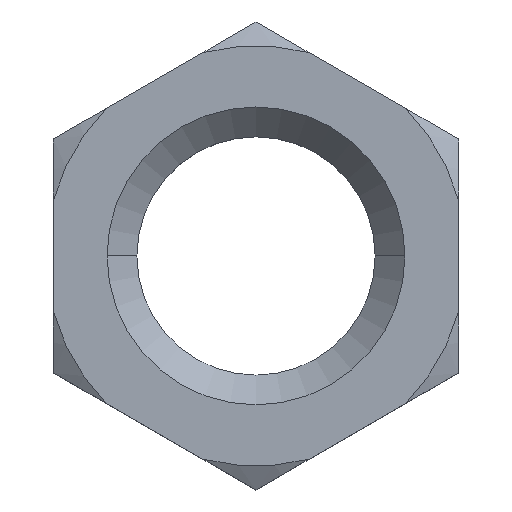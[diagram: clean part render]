
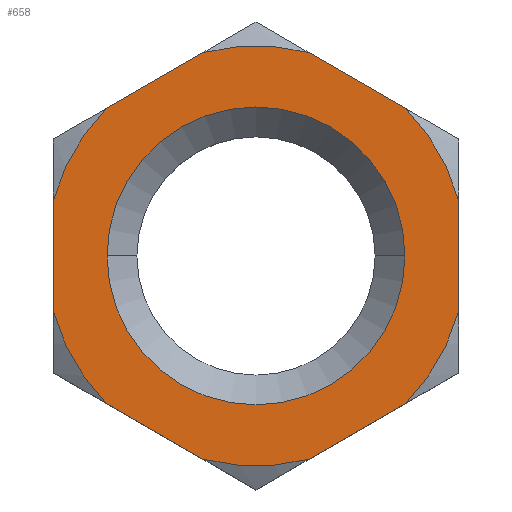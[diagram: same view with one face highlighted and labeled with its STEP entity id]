
A CAD part, top view. The second image highlights one B-rep face of the part: STEP entity #658.
In plain terms, the highlighted planar face has unit normal (0, 0, 1).
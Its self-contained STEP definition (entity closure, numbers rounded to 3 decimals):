
#8 = LINE ( 'NONE', #492, #610 ) ;
#11 = CARTESIAN_POINT ( 'NONE',  ( 0., 0., 2.35 ) ) ;
#15 = CARTESIAN_POINT ( 'NONE',  ( 0., 0., 2.35 ) ) ;
#17 = ORIENTED_EDGE ( 'NONE', *, *, #471, .F. ) ;
#21 = CIRCLE ( 'NONE', #149, 8.815 ) ;
#23 = AXIS2_PLACEMENT_3D ( 'NONE', #878, #588, #34 ) ;
#34 = DIRECTION ( 'NONE',  ( -1., 0., 0. ) ) ;
#41 = LINE ( 'NONE', #465, #411 ) ;
#54 = AXIS2_PLACEMENT_3D ( 'NONE', #264, #708, #772 ) ;
#56 = EDGE_CURVE ( 'NONE', #371, #888, #589, .T. ) ;
#57 = LINE ( 'NONE', #715, #934 ) ;
#70 = CARTESIAN_POINT ( 'NONE',  ( 6.272, 6.194, 2.35 ) ) ;
#89 = DIRECTION ( 'NONE',  ( 0., 0., -1. ) ) ;
#110 = EDGE_CURVE ( 'NONE', #123, #690, #403, .T. ) ;
#122 = DIRECTION ( 'NONE',  ( 0.866, -0.5, 0. ) ) ;
#123 = VERTEX_POINT ( 'NONE', #380 ) ;
#124 = ORIENTED_EDGE ( 'NONE', *, *, #440, .F. ) ;
#125 = CARTESIAN_POINT ( 'NONE',  ( -8.5, 4.907, 2.35 ) ) ;
#149 = AXIS2_PLACEMENT_3D ( 'NONE', #629, #852, #923 ) ;
#156 = DIRECTION ( 'NONE',  ( 0., 0., -1. ) ) ;
#162 = CARTESIAN_POINT ( 'NONE',  ( -6.25, 0., 2.35 ) ) ;
#164 = AXIS2_PLACEMENT_3D ( 'NONE', #594, #516, #520 ) ;
#180 = CIRCLE ( 'NONE', #164, 8.815 ) ;
#187 = EDGE_CURVE ( 'NONE', #501, #736, #287, .T. ) ;
#189 = ORIENTED_EDGE ( 'NONE', *, *, #851, .F. ) ;
#210 = EDGE_CURVE ( 'NONE', #746, #352, #325, .T. ) ;
#215 = CARTESIAN_POINT ( 'NONE',  ( 2.228, -8.529, 2.35 ) ) ;
#216 = VERTEX_POINT ( 'NONE', #70 ) ;
#234 = DIRECTION ( 'NONE',  ( 0., 0., -1. ) ) ;
#235 = DIRECTION ( 'NONE',  ( 0., 0., -1. ) ) ;
#239 = CARTESIAN_POINT ( 'NONE',  ( -6.272, -6.194, 2.35 ) ) ;
#264 = CARTESIAN_POINT ( 'NONE',  ( 0., 0., 2.35 ) ) ;
#273 = DIRECTION ( 'NONE',  ( 0., 1., 0. ) ) ;
#275 = EDGE_LOOP ( 'NONE', ( #661, #435, #17, #705, #189, #598, #124, #927, #301, #649, #935, #617 ) ) ;
#279 = VERTEX_POINT ( 'NONE', #915 ) ;
#285 = DIRECTION ( 'NONE',  ( 1., 0., 0. ) ) ;
#287 = CIRCLE ( 'NONE', #23, 8.815 ) ;
#294 = PLANE ( 'NONE',  #676 ) ;
#297 = EDGE_CURVE ( 'NONE', #888, #371, #500, .T. ) ;
#301 = ORIENTED_EDGE ( 'NONE', *, *, #187, .F. ) ;
#316 = CIRCLE ( 'NONE', #374, 8.815 ) ;
#320 = DIRECTION ( 'NONE',  ( 0.866, 0.5, 0. ) ) ;
#325 = LINE ( 'NONE', #335, #754 ) ;
#326 = VERTEX_POINT ( 'NONE', #867 ) ;
#328 = VERTEX_POINT ( 'NONE', #215 ) ;
#335 = CARTESIAN_POINT ( 'NONE',  ( 0., 9.815, 2.35 ) ) ;
#340 = DIRECTION ( 'NONE',  ( -0.866, 0.5, 0. ) ) ;
#346 = ORIENTED_EDGE ( 'NONE', *, *, #56, .T. ) ;
#352 = VERTEX_POINT ( 'NONE', #498 ) ;
#371 = VERTEX_POINT ( 'NONE', #162 ) ;
#374 = AXIS2_PLACEMENT_3D ( 'NONE', #385, #235, #747 ) ;
#380 = CARTESIAN_POINT ( 'NONE',  ( 8.5, -2.335, 2.35 ) ) ;
#385 = CARTESIAN_POINT ( 'NONE',  ( 0., 0., 2.35 ) ) ;
#403 = CIRCLE ( 'NONE', #859, 8.815 ) ;
#411 = VECTOR ( 'NONE', #122, 1000. ) ;
#423 = VERTEX_POINT ( 'NONE', #438 ) ;
#435 = ORIENTED_EDGE ( 'NONE', *, *, #911, .T. ) ;
#438 = CARTESIAN_POINT ( 'NONE',  ( -2.228, -8.529, 2.35 ) ) ;
#440 = EDGE_CURVE ( 'NONE', #279, #352, #180, .T. ) ;
#462 = EDGE_LOOP ( 'NONE', ( #650, #346 ) ) ;
#465 = CARTESIAN_POINT ( 'NONE',  ( -8.5, -4.907, 2.35 ) ) ;
#471 = EDGE_CURVE ( 'NONE', #216, #475, #316, .T. ) ;
#475 = VERTEX_POINT ( 'NONE', #584 ) ;
#478 = DIRECTION ( 'NONE',  ( -0.866, -0.5, 0. ) ) ;
#480 = VECTOR ( 'NONE', #320, 1000. ) ;
#483 = DIRECTION ( 'NONE',  ( 0., -1., 0. ) ) ;
#488 = CARTESIAN_POINT ( 'NONE',  ( 6.25, 0., 2.35 ) ) ;
#492 = CARTESIAN_POINT ( 'NONE',  ( 8.5, 4.907, 2.35 ) ) ;
#498 = CARTESIAN_POINT ( 'NONE',  ( -6.272, 6.194, 2.35 ) ) ;
#500 = CIRCLE ( 'NONE', #638, 6.25 ) ;
#501 = VERTEX_POINT ( 'NONE', #239 ) ;
#516 = DIRECTION ( 'NONE',  ( 0., 0., -1. ) ) ;
#520 = DIRECTION ( 'NONE',  ( -1., 0., 0. ) ) ;
#562 = EDGE_CURVE ( 'NONE', #501, #423, #41, .T. ) ;
#572 = VECTOR ( 'NONE', #483, 1000. ) ;
#578 = FACE_OUTER_BOUND ( 'NONE', #275, .T. ) ;
#584 = CARTESIAN_POINT ( 'NONE',  ( 8.5, 2.335, 2.35 ) ) ;
#587 = LINE ( 'NONE', #689, #480 ) ;
#588 = DIRECTION ( 'NONE',  ( 0., 0., -1. ) ) ;
#589 = CIRCLE ( 'NONE', #876, 6.25 ) ;
#593 = EDGE_CURVE ( 'NONE', #328, #690, #587, .T. ) ;
#594 = CARTESIAN_POINT ( 'NONE',  ( 0., 0., 2.35 ) ) ;
#596 = DIRECTION ( 'NONE',  ( -1., 0., 0. ) ) ;
#598 = ORIENTED_EDGE ( 'NONE', *, *, #210, .T. ) ;
#610 = VECTOR ( 'NONE', #340, 1000. ) ;
#615 = CARTESIAN_POINT ( 'NONE',  ( -2.228, 8.529, 2.35 ) ) ;
#617 = ORIENTED_EDGE ( 'NONE', *, *, #593, .T. ) ;
#629 = CARTESIAN_POINT ( 'NONE',  ( 0., 0., 2.35 ) ) ;
#638 = AXIS2_PLACEMENT_3D ( 'NONE', #656, #89, #285 ) ;
#649 = ORIENTED_EDGE ( 'NONE', *, *, #562, .T. ) ;
#650 = ORIENTED_EDGE ( 'NONE', *, *, #297, .T. ) ;
#656 = CARTESIAN_POINT ( 'NONE',  ( 0., 0., 2.35 ) ) ;
#657 = DIRECTION ( 'NONE',  ( 1., 0., 0. ) ) ;
#658 = ADVANCED_FACE ( 'NONE', ( #740, #578 ), #294, .T. ) ;
#661 = ORIENTED_EDGE ( 'NONE', *, *, #110, .F. ) ;
#676 = AXIS2_PLACEMENT_3D ( 'NONE', #11, #799, #806 ) ;
#689 = CARTESIAN_POINT ( 'NONE',  ( 0., -9.815, 2.35 ) ) ;
#690 = VERTEX_POINT ( 'NONE', #920 ) ;
#705 = ORIENTED_EDGE ( 'NONE', *, *, #901, .T. ) ;
#707 = EDGE_CURVE ( 'NONE', #279, #736, #854, .T. ) ;
#708 = DIRECTION ( 'NONE',  ( 0., 0., -1. ) ) ;
#715 = CARTESIAN_POINT ( 'NONE',  ( 8.5, -4.907, 2.35 ) ) ;
#736 = VERTEX_POINT ( 'NONE', #837 ) ;
#740 = FACE_BOUND ( 'NONE', #462, .T. ) ;
#746 = VERTEX_POINT ( 'NONE', #615 ) ;
#747 = DIRECTION ( 'NONE',  ( -1., 0., 0. ) ) ;
#753 = CARTESIAN_POINT ( 'NONE',  ( 0., 0., 2.35 ) ) ;
#754 = VECTOR ( 'NONE', #478, 1000. ) ;
#772 = DIRECTION ( 'NONE',  ( -1., 0., 0. ) ) ;
#787 = CIRCLE ( 'NONE', #54, 8.815 ) ;
#799 = DIRECTION ( 'NONE',  ( 0., 0., 1. ) ) ;
#802 = EDGE_CURVE ( 'NONE', #328, #423, #787, .T. ) ;
#806 = DIRECTION ( 'NONE',  ( 1., 0., 0. ) ) ;
#837 = CARTESIAN_POINT ( 'NONE',  ( -8.5, -2.335, 2.35 ) ) ;
#851 = EDGE_CURVE ( 'NONE', #746, #326, #21, .T. ) ;
#852 = DIRECTION ( 'NONE',  ( 0., 0., -1. ) ) ;
#854 = LINE ( 'NONE', #125, #572 ) ;
#859 = AXIS2_PLACEMENT_3D ( 'NONE', #753, #234, #596 ) ;
#867 = CARTESIAN_POINT ( 'NONE',  ( 2.228, 8.529, 2.35 ) ) ;
#876 = AXIS2_PLACEMENT_3D ( 'NONE', #15, #156, #657 ) ;
#878 = CARTESIAN_POINT ( 'NONE',  ( 0., 0., 2.35 ) ) ;
#888 = VERTEX_POINT ( 'NONE', #488 ) ;
#901 = EDGE_CURVE ( 'NONE', #216, #326, #8, .T. ) ;
#911 = EDGE_CURVE ( 'NONE', #123, #475, #57, .T. ) ;
#915 = CARTESIAN_POINT ( 'NONE',  ( -8.5, 2.335, 2.35 ) ) ;
#920 = CARTESIAN_POINT ( 'NONE',  ( 6.272, -6.194, 2.35 ) ) ;
#923 = DIRECTION ( 'NONE',  ( -1., 0., 0. ) ) ;
#927 = ORIENTED_EDGE ( 'NONE', *, *, #707, .T. ) ;
#934 = VECTOR ( 'NONE', #273, 1000. ) ;
#935 = ORIENTED_EDGE ( 'NONE', *, *, #802, .F. ) ;
